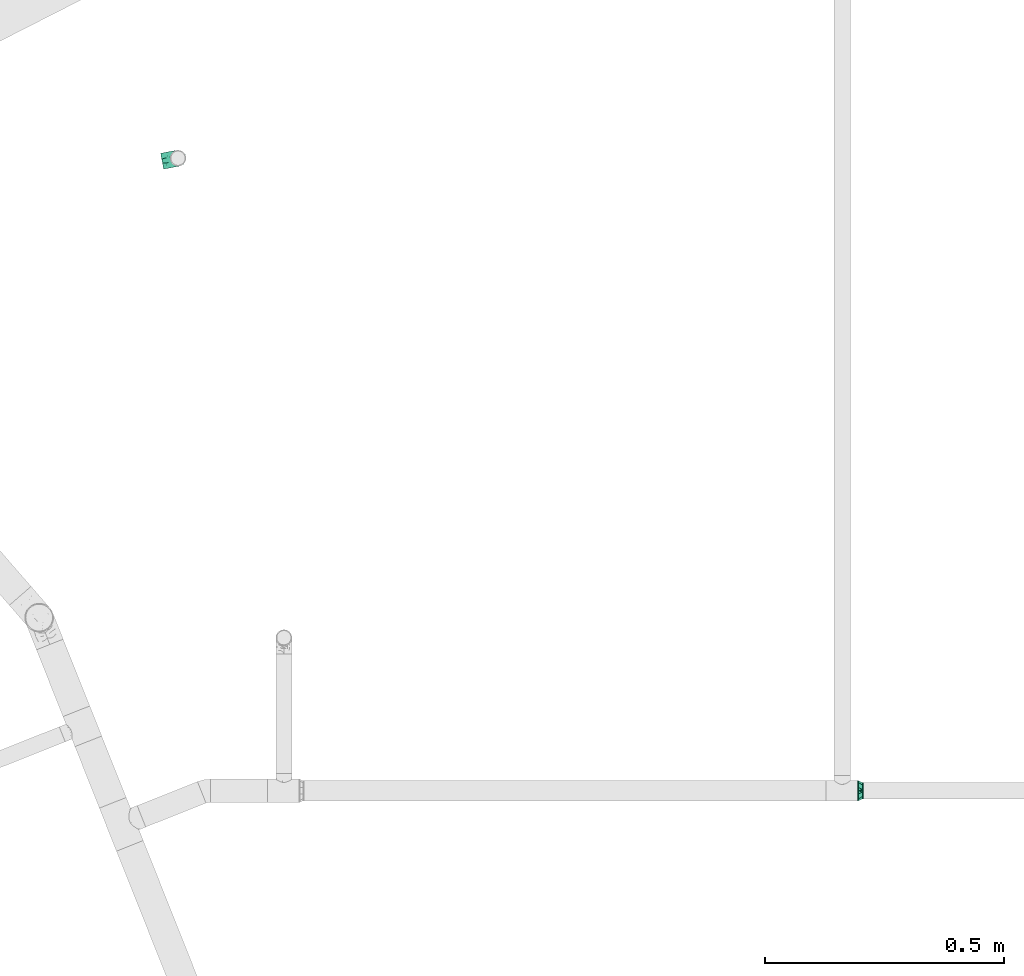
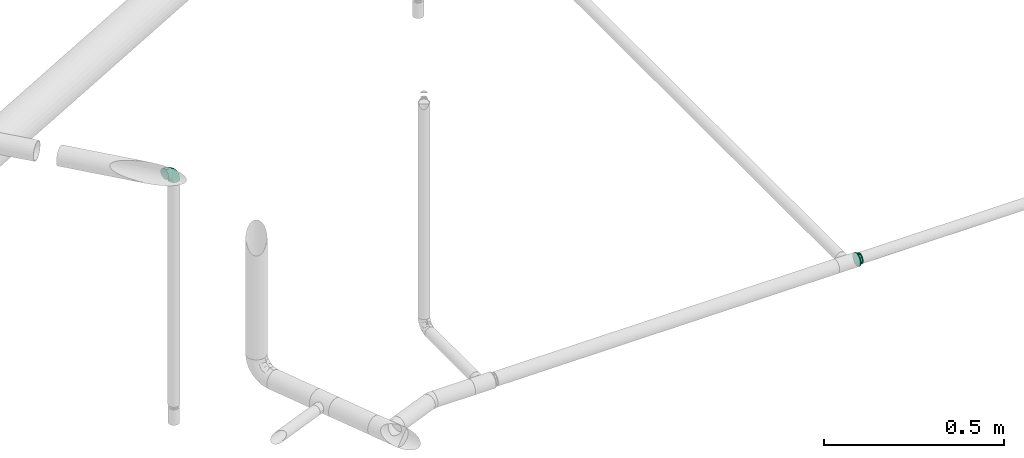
# One storey, part 45 of 94: 2 flow fittings.
"""IFC2X3 building model written with IfcOpenShell, lengths in millimetres."""

import ifcopenshell
import ifcopenshell.guid

model = None  # the IFC model being written
_history = None  # IfcOwnerHistory: only IFC2X3 demands one
_inside = {}  # id of a spatial element -> (the spatial element, [elements in it])
_under = {}  # id of a project, library or spatial element -> (it, [spatial elements below it])
_declared = {}  # id of a project -> (the project, [libraries it declares])
_typed = {}  # id of a type object -> (the type object, [elements of that type])
_made_of = {}  # id of a material, layer set ... -> (it, [elements and type objects made of it])


def new_model(schema):
    """Start an empty IFC model of exactly this schema.

    Asked for "IFC4X3", IfcOpenShell would pick the latest addendum, in which some entities
    have other attributes; the version numbers below select the first issue.
    IFC2X3 requires an IfcOwnerHistory on every rooted entity: one is made here for all.
    """
    global model, _history
    if schema == "IFC4X3":
        model = ifcopenshell.file(schema_version=(4, 3, 0, 0))
    else:
        model = ifcopenshell.file(schema=schema)
    _inside.clear()
    _under.clear()
    _declared.clear()
    _typed.clear()
    _made_of.clear()
    _history = None
    if model.schema == "IFC2X3":
        org = make("IfcOrganization", Name="unknown")
        user = make(
            "IfcPersonAndOrganization",
            ThePerson=make("IfcPerson", FamilyName="unknown"),
            TheOrganization=org,
        )
        app = make(
            "IfcApplication",
            ApplicationDeveloper=org,
            Version="unknown",
            ApplicationFullName="unknown",
            ApplicationIdentifier="unknown",
        )
        _history = make(
            "IfcOwnerHistory",
            OwningUser=user,
            OwningApplication=app,
            ChangeAction="ADDED",
            CreationDate=0,
        )
    return model


def make(cls, **values):
    """One entity of the class cls with the attributes given. An attribute that is None is left unset."""
    return model.create_entity(
        cls, **{name: value for name, value in values.items() if value is not None}
    )


def entity(cls, *values):
    """Any entity or typed value of the class cls, its attributes in the order of the schema. None: left unset."""
    e = model.create_entity(cls)
    for i, value in enumerate(values):
        if value is not None:
            e[i] = value
    return e


def rooted(cls, **values):
    """An entity with a GlobalId (a new one), such as an element, a storey or a relation."""
    return make(cls, GlobalId=ifcopenshell.guid.new(), OwnerHistory=_history, **values)


def si_unit(unit_type, name, prefix=None):
    """IfcSIUnit, for example si_unit("LENGTHUNIT", "METRE", prefix="MILLI")."""
    return make("IfcSIUnit", UnitType=unit_type, Prefix=prefix, Name=name)


def converted_unit(unit_type, name, factor, base, dimensions=None, offset=None):
    """IfcConversionBasedUnit, such as the inch: factor (a typed value) times the base unit."""
    return make(
        "IfcConversionBasedUnit"
        if offset is None
        else "IfcConversionBasedUnitWithOffset",
        ConversionOffset=offset,
        Dimensions=None
        if dimensions is None
        else entity("IfcDimensionalExponents", *dimensions),
        UnitType=unit_type,
        Name=name,
        ConversionFactor=make(
            "IfcMeasureWithUnit", ValueComponent=factor, UnitComponent=base
        ),
    )


def derived_unit(unit_type, elements):
    """IfcDerivedUnit: a product of units, each with its exponent."""
    return make(
        "IfcDerivedUnit",
        Elements=[
            make("IfcDerivedUnitElement", Unit=unit, Exponent=power)
            for unit, power in elements
        ],
        UnitType=unit_type,
    )


def assignment(units):
    """IfcUnitAssignment: the units of a project."""
    return None if units is None else make("IfcUnitAssignment", Units=units)


def point(xyz):
    """IfcCartesianPoint."""
    return None if xyz is None else make("IfcCartesianPoint", Coordinates=xyz)


def direction(xyz):
    """IfcDirection."""
    return None if xyz is None else make("IfcDirection", DirectionRatios=xyz)


def frame(location, z_axis=None, x_axis=None):
    """IfcAxis2Placement3D, a coordinate frame: its origin and axes. An axis left out is left unset."""
    return make(
        "IfcAxis2Placement3D",
        Location=point(location),
        Axis=direction(z_axis),
        RefDirection=direction(x_axis),
    )


def origin_with_axes():
    """The frame at (0, 0, 0) with the z axis (0, 0, 1) and the x axis (1, 0, 0) written out."""
    return frame((0.0, 0.0, 0.0), z_axis=(0.0, 0.0, 1.0), x_axis=(1.0, 0.0, 0.0))


def place(relative_to, where):
    """IfcLocalPlacement: puts the frame where relative to a parent placement (None: the world)."""
    return make(
        "IfcLocalPlacement", PlacementRelTo=relative_to, RelativePlacement=where
    )


def context(
    kind, dimensions, precision=None, world=None, true_north=None, identifier=None
):
    """IfcGeometricRepresentationContext, for example the 3D "Model" context."""
    return make(
        "IfcGeometricRepresentationContext",
        ContextIdentifier=identifier,
        ContextType=kind,
        CoordinateSpaceDimension=dimensions,
        Precision=precision,
        WorldCoordinateSystem=world,
        TrueNorth=true_north,
    )


def subcontext(parent, identifier, kind, view, scale=None):
    """IfcGeometricRepresentationSubContext, for example "Body" below "Model"."""
    return make(
        "IfcGeometricRepresentationSubContext",
        ContextIdentifier=identifier,
        ContextType=kind,
        ParentContext=parent,
        TargetScale=scale,
        TargetView=view,
    )


def project(units=None, contexts=None):
    """IfcProject with its units and contexts."""
    return rooted(
        "IfcProject",
        Name="project",
        RepresentationContexts=contexts,
        UnitsInContext=assignment(units),
    )


def spatial(cls, under=None, at=None, **own):
    """A site, building, storey or space (cls), placed at a placement, below another one or the project."""
    s = rooted(cls, ObjectPlacement=at, **own)
    if under is not None:
        _under.setdefault(under.id(), (under, []))[1].append(s)
    return s


def faces_of(points, faces, orient=None, outer=None):
    """IfcFace entities. A face is a list of loops; a loop is a list of indices into points, from 0.

    orient and outer hold one flag for each loop. By default every Orientation is true, the
    first loop of a face is its IfcFaceOuterBound and the others are IfcFaceBound.
    """
    made = []
    for i, loops in enumerate(faces):
        bounds = []
        for j, loop in enumerate(loops):
            is_outer = j == 0 if outer is None else outer[i][j]
            bounds.append(
                make(
                    "IfcFaceOuterBound" if is_outer else "IfcFaceBound",
                    Bound=make("IfcPolyLoop", Polygon=[points[k] for k in loop]),
                    Orientation=True if orient is None else orient[i][j],
                )
            )
        made.append(make("IfcFace", Bounds=bounds))
    return made


def open_shell(faces, orient=None, outer=None):
    """The faces of one IfcOpenShell. surface_model builds it on its shared points."""
    return ("IfcOpenShell", faces, orient, outer)


def surface_model(cls, points, shells):
    """IfcFaceBasedSurfaceModel or IfcShellBasedSurfaceModel (cls): surfaces that need not close."""
    shared = [point(p) for p in points]
    made = [make(c, CfsFaces=faces_of(shared, fs, o, b)) for c, fs, o, b in shells]
    if cls == "IfcFaceBasedSurfaceModel":
        return make(cls, FbsmFaces=made)
    return make(cls, SbsmBoundary=made)


def shape(context_of_items, identifier, shape_type, items):
    """IfcShapeRepresentation: the items that make up one representation, for example the "Body"."""
    return make(
        "IfcShapeRepresentation",
        ContextOfItems=context_of_items,
        RepresentationIdentifier=identifier,
        RepresentationType=shape_type,
        Items=items,
    )


def source(mapping_origin, context_of_items, identifier, shape_type, items):
    """IfcRepresentationMap: a shape defined once, which mapped items show again and again."""
    return make(
        "IfcRepresentationMap",
        MappingOrigin=mapping_origin,
        MappedRepresentation=shape(context_of_items, identifier, shape_type, items),
    )


def transform(
    local_origin,
    x_axis=None,
    y_axis=None,
    z_axis=None,
    scale=None,
    scale2=None,
    scale3=None,
    uniform=True,
):
    """IfcCartesianTransformationOperator3D, or its non-uniform kind. x_axis, y_axis, z_axis: its Axis1, 2, 3."""
    if uniform:
        return make(
            "IfcCartesianTransformationOperator3D",
            Axis1=direction(x_axis),
            Axis2=direction(y_axis),
            LocalOrigin=point(local_origin),
            Scale=scale,
            Axis3=direction(z_axis),
        )
    return make(
        "IfcCartesianTransformationOperator3DnonUniform",
        Axis1=direction(x_axis),
        Axis2=direction(y_axis),
        LocalOrigin=point(local_origin),
        Scale=scale,
        Axis3=direction(z_axis),
        Scale2=scale2,
        Scale3=scale3,
    )


def mapped(mapping_source, mapping_target):
    """IfcMappedItem: shows the shape of a source again, moved by a transform."""
    return make(
        "IfcMappedItem", MappingSource=mapping_source, MappingTarget=mapping_target
    )


def made_of(thing, what):
    """Note that an element or type object is made of a material, layer set ...; save() writes the relation."""
    if what is not None:
        _made_of.setdefault(what.id(), (what, []))[1].append(thing)
    return thing


def type_object(cls, material=None, **own):
    """A type object (cls), such as IfcWallType, which elements share."""
    return made_of(rooted(cls, **own), material)


def element(
    cls,
    number,
    at=None,
    inside=None,
    cuts=None,
    type_object=None,
    material=None,
    context=None,
    identifier="Body",
    shape_type=None,
    held_by="IfcProductDefinitionShape",
    body=None,
    shapes=None,
    **own,
):
    """One element of the class cls, such as IfcWall. Its Tag is "e" and its number.

    at: its placement. inside: the storey or other place that contains it. cuts: it is an
    opening in that element (IfcRelVoidsElement). A single representation is given by context,
    identifier, shape_type and body (its items); several are given by shapes. held_by: the class
    of the entity that holds the representations. save() writes the other relations.
    """
    e = rooted(cls, Tag="e%d" % number, ObjectPlacement=at, **own)
    if body is not None:
        shapes = [shape(context, identifier, shape_type, body)]
    if shapes is not None:
        e.Representation = make(held_by, Representations=shapes)
    if inside is not None:
        _inside.setdefault(inside.id(), (inside, []))[1].append(e)
    if cuts is not None:
        rooted(
            "IfcRelVoidsElement", RelatingBuildingElement=cuts, RelatedOpeningElement=e
        )
    if type_object is not None:
        _typed.setdefault(type_object.id(), (type_object, []))[1].append(e)
    return made_of(e, material)


def aggregate(whole, parts):
    """IfcRelAggregates: a whole, such as a stair, and the parts it consists of."""
    return rooted("IfcRelAggregates", RelatingObject=whole, RelatedObjects=parts)


def save(model, path):
    """Write the relations noted so far, then the file.

    IfcRelAggregates (storeys below a building ...), IfcRelContainedInSpatialStructure (elements
    in a storey), IfcRelDefinesByType, IfcRelAssociatesMaterial and IfcRelDeclares: one each for
    every whole, place, type object, material and project.
    """
    for whole, parts in _under.values():
        aggregate(whole, parts)
    for where, things in _inside.values():
        rooted(
            "IfcRelContainedInSpatialStructure",
            RelatedElements=things,
            RelatingStructure=where,
        )
    for kind, things in _typed.values():
        rooted("IfcRelDefinesByType", RelatedObjects=things, RelatingType=kind)
    for what, things in _made_of.values():
        rooted("IfcRelAssociatesMaterial", RelatedObjects=things, RelatingMaterial=what)
    for by, libraries in _declared.values():
        rooted("IfcRelDeclares", RelatingContext=by, RelatedDefinitions=libraries)
    model.write(path)


model = new_model("IFC2X3")

# Units and contexts
model_context = context("Model", 3, precision=0.01, world=frame((0.0, 4.29681676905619e-09, 0.0)), true_north=direction((4.01073788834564e-13, 1.0)))
plan_context = context("Plan", 3, precision=0.01, world=frame((0.0, 4.29681676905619e-09, 0.0)), true_north=direction((4.01073788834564e-13, 1.0)))
body_context = subcontext(model_context, "Body", "Model", "MODEL_VIEW")
ifc_project = project(units=[converted_unit("PLANEANGLEUNIT", "DEGREE", entity("IfcPositiveLengthMeasure", 0.0174532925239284), si_unit("PLANEANGLEUNIT", "RADIAN"), dimensions=[0, 0, 0, 0, 0, 0, 0]), si_unit("AREAUNIT", "SQUARE_METRE"), si_unit("LENGTHUNIT", "METRE", prefix="MILLI"), si_unit("MASSUNIT", "GRAM", prefix="KILO"), si_unit("POWERUNIT", "WATT"), si_unit("PRESSUREUNIT", "PASCAL", prefix="KILO"), si_unit("FORCEUNIT", "NEWTON", prefix="KILO"), si_unit("ELECTRICVOLTAGEUNIT", "VOLT"), si_unit("ELECTRICCURRENTUNIT", "AMPERE"), si_unit("THERMODYNAMICTEMPERATUREUNIT", "DEGREE_CELSIUS"), si_unit("TIMEUNIT", "SECOND"), si_unit("VOLUMEUNIT", "CUBIC_METRE"), derived_unit("LINEARVELOCITYUNIT", [(si_unit("LENGTHUNIT", "METRE"), 1), (si_unit("TIMEUNIT", "SECOND"), -1)]), derived_unit("VOLUMETRICFLOWRATEUNIT", [(si_unit("VOLUMEUNIT", "CUBIC_METRE"), 1), (si_unit("TIMEUNIT", "SECOND"), -1)]), derived_unit("THERMALTRANSMITTANCEUNIT", [(si_unit("POWERUNIT", "WATT"), 1), (si_unit("THERMODYNAMICTEMPERATUREUNIT", "KELVIN"), -1), (si_unit("AREAUNIT", "SQUARE_METRE"), -1)]), derived_unit("SOUNDPRESSUREUNIT", [(si_unit("PRESSUREUNIT", "PASCAL"), 1)])], contexts=[model_context, plan_context])

# Site, building, storey
site_placement = place(None, frame((0.0, -4.29681676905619e-09, 0.0), z_axis=(0.0, 0.0, 1.0), x_axis=(1.0, 0.0, 0.0)))
site = spatial("IfcSite", under=ifc_project, at=site_placement, CompositionType="ELEMENT")
building_placement = place(site_placement, frame((0.0, 4.29681676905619e-09, 0.0), z_axis=(0.0, 0.0, 1.0), x_axis=(1.0, 0.0, 0.0)))
building = spatial("IfcBuilding", under=site, at=building_placement, Name="mc-building", CompositionType="ELEMENT")
storey_placement = place(building_placement, frame((0.0, 0.0, 210900.0), z_axis=(0.0, 0.0, 1.0), x_axis=(1.0, 0.0, 0.0)))
storey = spatial("IfcBuildingStorey", under=building, at=storey_placement, Name="Nivå F", CompositionType="ELEMENT", Elevation=210900.0)

# Flow fittings
pipe_fitting_type_1 = type_object("IfcPipeFittingType", Name="magi_pipe_fe_reducer_centric_short_NOR", PredefinedType="TRANSITION")
shared_shape_1 = source(origin_with_axes(), body_context, "Body", "SurfaceModel", [
    surface_model("IfcShellBasedSurfaceModel", [(-2.0, -10.6, -18.35974), (-2.0, 0.0, -21.2), (-2.0, -5.48696, -20.47763), (-2.0, 5.48696, -20.47763), (-2.0, 10.6, -18.35974), (8.6, -11.9501, -11.9501), (8.6, -11.9501, 11.9501), (8.6, -16.9, 0.0), (8.6, 11.9501, -11.9501), (8.6, 16.9, 0.0), (8.6, 0.0, -16.9), (0.0, 17.15116, 12.46105), (0.0, 6.55116, -20.1624), (0.0, -21.2, 0.0), (0.0, -6.55116, -20.1624), (0.0, -17.15116, -12.46105), (8.6, 2.98753, -15.66253), (0.0, 0.0, -20.1624), (0.0, -11.85116, -16.31172), (8.6, -2.98753, -15.66253), (8.6, 8.96258, -13.18758), (8.6, 5.97505, -14.42505), (0.0, 11.85116, -16.31172), (8.6, -5.97505, -14.42505), (8.6, -13.18758, -8.96258), (8.6, -8.96258, -13.18758), (0.0, -6.55116, 20.1624), (8.6, -2.98753, 15.66253), (0.0, 0.0, 20.1624), (8.6, 11.9501, 11.9501), (0.0, 11.85116, 16.31172), (8.6, 2.98753, 15.66253), (0.0, 6.55116, 20.1624), (8.6, -8.96258, 13.18758), (8.6, -5.97505, 14.42505), (0.0, -11.85116, 16.31172), (8.6, 5.97505, 14.42505), (8.6, 13.18758, 8.96258), (8.6, 8.96258, 13.18758), (10.6, 4.37404, -16.32415), (10.6, 8.45, -14.63583), (10.6, 11.9501, -11.9501), (10.6, -8.45, -14.63583), (10.6, 16.32415, -4.37404), (10.6, 16.32415, 4.37404), (10.6, 14.63583, -8.45), (10.6, 0.0, -16.9), (10.6, -4.37404, -16.32415), (10.6, -11.9501, -11.9501), (10.6, -16.32415, -4.37404), (10.6, -14.63583, -8.45), (10.6, -16.32415, 4.37404), (10.6, 16.9, 0.0), (10.6, 14.63583, 8.45), (10.6, 11.9501, 11.9501), (10.6, 4.37404, 16.32415), (10.6, 8.45, 14.63583), (10.6, 0.0, 16.9), (10.6, -14.63583, 8.45), (10.6, -16.9, 0.0), (10.6, -8.45, 14.63583), (10.6, -11.9501, 11.9501), (10.6, -4.37404, 16.32415), (8.6, 4.37404, 16.32415), (8.6, -14.63583, 8.45), (8.6, 0.0, 16.9), (8.6, 16.32415, 4.37404), (8.6, 8.45, 14.63583), (8.6, 14.63583, 8.45), (8.6, -8.45, 14.63583), (8.6, -4.37404, 16.32415), (8.6, -16.32415, 4.37404), (8.6, -16.32415, -4.37404), (8.6, -8.45, -14.63583), (8.6, 16.32415, -4.37404), (8.6, 14.63583, -8.45), (8.6, 8.45, -14.63583), (8.6, 4.37404, -16.32415), (8.6, -14.63583, -8.45), (8.6, -4.37404, -16.32415), (-2.0, 0.0, 21.2), (-2.0, 5.48696, 20.47763), (-2.0, 10.6, 18.35974), (-2.0, 14.99066, 14.99066), (-2.0, 18.35974, 10.6), (-2.0, 20.47763, 5.48696), (-2.0, -21.2, 0.0), (-2.0, -14.99066, -14.99066), (-2.0, -5.48696, 20.47763), (-2.0, -14.99066, 14.99066), (-2.0, -10.6, 18.35974), (-2.0, -18.35974, 10.6), (-2.0, -20.47763, 5.48696), (-2.0, 20.47763, -5.48696), (-2.0, 14.99066, -14.99066), (-2.0, 18.35974, -10.6), (-2.0, -18.35974, -10.6), (-2.0, -20.47763, -5.48696), (-2.0, 21.2, 0.0), (0.0, 10.6, -18.35974), (0.0, 0.0, -21.2), (0.0, 5.48696, -20.47763), (0.0, 20.47763, -5.48696), (0.0, 14.99066, -14.99066), (0.0, -14.99066, -14.99066), (0.0, 18.35974, -10.6), (0.0, -10.6, -18.35974), (0.0, -5.48696, -20.47763), (0.0, -18.35974, -10.6), (0.0, -20.47763, -5.48696), (0.0, -18.35974, 10.6), (0.0, 21.2, 0.0), (0.0, 20.47763, 5.48696), (0.0, 18.35974, 10.6), (0.0, 14.99066, 14.99066), (0.0, 0.0, 21.2), (0.0, 10.6, 18.35974), (0.0, 5.48696, 20.47763), (0.0, -14.99066, 14.99066), (0.0, -20.47763, 5.48696), (0.0, -5.48696, 20.47763), (0.0, -10.6, 18.35974), (0.0, -17.15116, 12.46105), (0.0, 17.15116, -12.46105), (0.0, 14.50116, -14.38638), (8.6, -14.42505, -5.97505), (0.0, -19.17558, -6.23052), (0.0, -18.16337, -9.34579), (8.6, 14.42505, -5.97505), (0.0, 19.17558, -6.23052), (8.6, 13.18758, -8.96258), (8.6, 15.66253, -2.98753), (8.6, -15.66253, -2.98753), (0.0, -14.50116, 14.38638), (8.6, 14.42505, 5.97505), (0.0, 19.17558, 6.23052), (0.0, 18.16337, 9.34579), (8.6, -14.42505, 5.97505), (0.0, -19.17558, 6.23052), (8.6, -13.18758, 8.96258), (8.6, -15.66253, 2.98753), (8.6, 15.66253, 2.98753)], [open_shell([[[0, 1, 2]], [[3, 1, 4]], [[5, 6, 7]], [[8, 9, 10]], [[11, 12, 13]], [[13, 12, 14]], [[13, 14, 15]], [[12, 16, 17]], [[5, 15, 18]], [[17, 19, 14]], [[20, 21, 22]], [[19, 23, 14]], [[12, 21, 16]], [[15, 5, 24]], [[25, 5, 18]], [[22, 8, 20]], [[26, 27, 28]], [[29, 11, 30]], [[28, 31, 32]], [[33, 34, 35]], [[31, 36, 32]], [[26, 34, 27]], [[11, 29, 37]], [[38, 29, 30]], [[35, 6, 33]], [[39, 40, 41]], [[42, 39, 41]], [[41, 43, 44]], [[43, 41, 45]], [[41, 44, 42]], [[46, 42, 47]], [[46, 39, 42]], [[48, 49, 50]], [[49, 48, 42]], [[42, 51, 49]], [[44, 43, 52]], [[44, 53, 54]], [[44, 54, 55]], [[55, 51, 42]], [[55, 54, 56]], [[51, 55, 57]], [[57, 58, 51]], [[59, 49, 51]], [[58, 60, 61]], [[58, 57, 60]], [[60, 57, 62]], [[42, 44, 55]], [[63, 64, 65]], [[66, 63, 67]], [[29, 68, 66]], [[29, 66, 67]], [[64, 63, 66]], [[69, 64, 6]], [[69, 70, 65]], [[65, 64, 69]], [[71, 64, 66]], [[71, 72, 7]], [[71, 66, 73]], [[66, 74, 8]], [[8, 74, 75]], [[8, 76, 77]], [[73, 66, 8]], [[77, 10, 8]], [[72, 5, 78]], [[5, 72, 73]], [[73, 10, 79]], [[72, 71, 73]], [[8, 10, 73]], [[74, 66, 9]], [[72, 49, 7]], [[78, 50, 72]], [[42, 5, 73]], [[78, 5, 48]], [[47, 73, 79]], [[72, 50, 49]], [[49, 59, 7]], [[47, 42, 73]], [[48, 5, 42]], [[48, 50, 78]], [[46, 47, 79]], [[79, 10, 46]], [[77, 39, 10]], [[76, 40, 77]], [[45, 8, 75]], [[76, 8, 41]], [[43, 75, 74]], [[76, 41, 40]], [[40, 39, 77]], [[52, 43, 74]], [[45, 75, 43]], [[45, 41, 8]], [[9, 52, 74]], [[10, 39, 46]], [[66, 44, 9]], [[68, 53, 66]], [[56, 29, 67]], [[68, 29, 54]], [[55, 67, 63]], [[66, 53, 44]], [[44, 52, 9]], [[55, 56, 67]], [[54, 29, 56]], [[54, 53, 68]], [[57, 55, 63]], [[63, 65, 57]], [[70, 62, 65]], [[69, 60, 70]], [[58, 6, 64]], [[69, 6, 61]], [[51, 64, 71]], [[69, 61, 60]], [[60, 62, 70]], [[59, 51, 71]], [[58, 64, 51]], [[58, 61, 6]], [[7, 59, 71]], [[65, 62, 57]], [[80, 81, 82]], [[80, 82, 83]], [[83, 84, 85]], [[83, 85, 80]], [[86, 80, 87]], [[88, 89, 90]], [[88, 80, 89]], [[91, 86, 92]], [[89, 80, 91]], [[80, 86, 91]], [[80, 85, 87]], [[85, 93, 4]], [[94, 93, 95]], [[87, 85, 4]], [[4, 93, 94]], [[86, 96, 97]], [[87, 96, 86]], [[0, 87, 4]], [[1, 0, 4]], [[93, 85, 98]], [[99, 100, 101]], [[102, 99, 103]], [[13, 104, 99]], [[102, 103, 105]], [[102, 13, 99]], [[100, 106, 107]], [[100, 99, 106]], [[108, 13, 109]], [[106, 99, 104]], [[108, 104, 13]], [[110, 102, 111]], [[112, 113, 114]], [[112, 114, 115]], [[116, 117, 115]], [[116, 115, 114]], [[112, 115, 118]], [[13, 110, 119]], [[102, 110, 13]], [[118, 120, 121]], [[110, 112, 118]], [[115, 120, 118]], [[110, 111, 112]], [[97, 109, 86]], [[96, 108, 97]], [[106, 87, 0]], [[96, 87, 104]], [[107, 0, 2]], [[97, 108, 109]], [[109, 13, 86]], [[107, 106, 0]], [[104, 87, 106]], [[104, 108, 96]], [[100, 107, 2]], [[2, 1, 100]], [[3, 101, 1]], [[4, 99, 3]], [[105, 94, 95]], [[4, 94, 103]], [[102, 95, 93]], [[4, 103, 99]], [[99, 101, 3]], [[111, 102, 93]], [[105, 95, 102]], [[105, 103, 94]], [[98, 111, 93]], [[1, 101, 100]], [[85, 112, 98]], [[84, 113, 85]], [[116, 83, 82]], [[84, 83, 114]], [[117, 82, 81]], [[85, 113, 112]], [[112, 111, 98]], [[117, 116, 82]], [[114, 83, 116]], [[114, 113, 84]], [[115, 117, 81]], [[81, 80, 115]], [[88, 120, 80]], [[90, 121, 88]], [[110, 89, 91]], [[90, 89, 118]], [[119, 91, 92]], [[90, 118, 121]], [[121, 120, 88]], [[13, 119, 92]], [[110, 91, 119]], [[110, 118, 89]], [[86, 13, 92]], [[80, 120, 115]], [[65, 6, 29]], [[9, 29, 6]], [[6, 10, 9]], [[10, 6, 5]], [[32, 11, 122]], [[32, 122, 26]], [[122, 11, 13]], [[12, 11, 123]], [[123, 11, 111]], [[8, 22, 124]], [[125, 126, 127]], [[22, 21, 12]], [[8, 124, 123]], [[128, 123, 129]], [[17, 16, 10]], [[123, 128, 130]], [[111, 131, 129]], [[13, 132, 7]], [[18, 23, 25]], [[13, 126, 132]], [[19, 17, 10]], [[131, 111, 9]], [[125, 132, 126]], [[15, 24, 127]], [[24, 125, 127]], [[8, 123, 130]], [[23, 18, 14]], [[131, 128, 129]], [[6, 35, 133]], [[134, 135, 136]], [[35, 34, 26]], [[6, 133, 122]], [[137, 122, 138]], [[28, 27, 65]], [[122, 137, 139]], [[13, 140, 138]], [[111, 141, 9]], [[30, 36, 38]], [[111, 135, 141]], [[31, 28, 65]], [[140, 13, 7]], [[134, 141, 135]], [[11, 37, 136]], [[37, 134, 136]], [[6, 122, 139]], [[36, 30, 32]], [[140, 137, 138]]])]),
])
flow_fitting_1_placement = place(storey_placement, frame((720422.70308, 440878.08755, 3600.0), z_axis=(0.0, 0.0, 1.0), x_axis=(1.0, 0.0, 0.0)))
element("IfcFlowFitting", 1, at=flow_fitting_1_placement, inside=storey, type_object=pipe_fitting_type_1, Name="magi_pipe_fe_reducer_centric_short_NOR", context=body_context, shape_type="MappedRepresentation", body=[
    mapped(shared_shape_1, transform((0.0, 0.0, 0.0), scale=1.0)),
])
pipe_fitting_type_2 = type_object("IfcPipeFittingType", Name="magi_pipe_fe_elbow_short_001", PredefinedType="BEND")
shared_shape_2 = source(origin_with_axes(), body_context, "Body", "SurfaceModel", [
    surface_model("IfcShellBasedSurfaceModel", [(-33.8, 8.45, -14.63583), (-33.8, 4.37404, -16.32415), (-33.8, 11.9501, -11.9501), (-33.8, -11.9501, -11.9501), (-33.8, -14.63583, -8.45), (-33.8, -8.45, -14.63583), (-33.8, 0.0, -16.9), (-33.8, -4.37404, -16.32415), (-33.8, -4.37404, 16.32415), (-33.8, 0.0, 16.9), (-33.8, -8.45, 14.63583), (-33.8, 16.32415, -4.37404), (-33.8, 14.63583, -8.45), (-33.8, -16.32415, -4.37404), (-33.8, -16.9, 0.0), (-33.8, -16.32415, 4.37404), (-33.8, 11.9501, 11.9501), (-33.8, 14.63583, 8.45), (-33.8, 16.32415, 4.37404), (-33.8, 4.37404, 16.32415), (-33.8, 8.45, 14.63583), (-33.8, -14.63583, 8.45), (-33.8, -11.9501, 11.9501), (-33.8, 16.9, 0.0), (-11.9501, 33.8, -11.9501), (0.0, 33.8, -16.9), (-4.37404, 33.8, -16.32415), (-8.45, 33.8, -14.63583), (-14.63583, 33.8, -8.45), (-16.32415, 33.8, -4.37404), (14.63583, 33.8, -8.45), (8.45, 33.8, 14.63583), (16.32415, 33.8, -4.37404), (8.45, 33.8, -14.63583), (11.9501, 33.8, -11.9501), (4.37404, 33.8, -16.32415), (16.32415, 33.8, 4.37404), (16.9, 33.8, 0.0), (-11.9501, 33.8, 11.9501), (-16.32415, 33.8, 4.37404), (-14.63583, 33.8, 8.45), (-8.45, 33.8, 14.63583), (-4.37404, 33.8, 16.32415), (11.9501, 33.8, 11.9501), (14.63583, 33.8, 8.45), (0.0, 33.8, 16.9), (4.37404, 33.8, 16.32415), (-16.9, 33.8, 0.0), (-24.79389, -13.12945, 9.48721), (-22.19287, -9.75018, 12.59315), (-24.09897, -14.97035, 0.0), (-14.93934, -10.76256, 8.5297), (-22.46095, -14.75051, 5.27077), (14.75051, 22.46094, 5.27077), (11.9251, 13.23888, 4.33236), (13.04069, 14.39795, 0.0), (7.71387, 13.68847, 11.55891), (9.75018, 22.19287, 12.59315), (4.10169, 13.0571, 14.04018), (-24.84007, -6.39063, 15.2048), (-25.81779, -2.23879, 16.61097), (-23.66549, 2.59054, 16.87119), (-26.50418, 14.06512, 11.08152), (-24.21253, 17.66365, 7.72657), (-29.58514, 15.86957, 7.00283), (-6.17382, -7.5455, 0.0), (-13.23888, -11.9251, 4.33236), (-14.39795, -13.04069, 0.0), (-17.81434, 18.87373, 11.97104), (-6.30846, 29.15138, 15.82987), (-2.31622, 25.28002, 16.85849), (-29.23923, 10.23435, 13.77053), (-1.45439, -2.85688, 7.61475), (-0.28326, 0.34872, 10.09509), (-5.74484, -4.04709, 10.4122), (-4.41137, 11.31918, 16.59407), (-8.39727, 3.10034, 15.7812), (-1.72649, 9.1306, 15.53089), (-17.39909, 24.75344, 7.64977), (-26.19233, 20.0512, 0.0), (-28.14518, 17.29657, 4.25857), (-26.05147, 6.6281, 15.96447), (-5.87354, 16.61944, 16.86968), (-12.51807, 12.51807, 16.48937), (-10.06312, 7.38516, 16.81295), (-3.01882, 3.01882, 13.81718), (-13.0571, -4.10169, 14.04018), (-16.82553, -0.15166, 16.38038), (10.76256, 14.93934, 8.5297), (13.12945, 24.79389, 9.48721), (6.39063, 24.84007, 15.2048), (2.23879, 25.81779, 16.61097), (-13.68847, -7.71387, 11.55891), (14.97035, 24.09897, 0.0), (-7.30894, 22.89991, 16.09489), (-10.67958, 26.17414, 14.008), (-12.78295, 18.26924, 15.06066), (-13.88562, 22.45231, 12.93244), (-18.04944, 15.16501, 14.04434), (-23.11658, 20.08178, 4.02986), (-21.84989, 21.84989, 0.0), (-18.55817, 25.48277, 3.93065), (-13.95142, 26.94732, 11.03289), (-18.57098, 7.23906, 16.59756), (-16.58335, 4.14122, 16.89279), (-17.96666, 11.46709, 15.63151), (-9.84453, 17.54304, 16.18938), (0.15166, 16.82553, 16.38038), (-23.27207, 11.47201, 14.23154), (3.84842, 5.86994, 10.70473), (-8.0212, -7.54413, 7.93275), (1.00345, -2.19508, 4.57414), (5.13203, 3.01004, 5.90201), (5.24161, 1.7543, 2.53265), (8.70457, 7.04947, 3.99182), (-20.0512, 26.19233, 0.0), (8.4852, 8.76699, 7.09296), (-4.55488, -6.72064, 4.90681), (2.05031, -2.05031, 0.0), (7.5455, 6.17382, 0.0), (-26.75399, 2.1369, -16.845), (-14.61995, 24.73803, -11.27736), (-28.45274, -13.45335, -9.81895), (-26.00469, 6.63555, -15.96645), (-23.06726, 20.04573, -4.26202), (-13.80647, -4.26506, -14.17873), (-14.67501, -0.21081, -16.07388), (-6.7902, -0.2828, -13.8478), (-24.53586, 11.08096, -14.13417), (-26.72048, 14.00837, -11.05776), (10.0967, 24.44989, -12.75976), (5.83237, 21.40218, -15.03047), (6.66249, 28.54238, -15.38093), (-20.38182, 15.48705, -12.74596), (12.53268, 21.23441, -9.15363), (12.54494, 15.67504, -5.54878), (9.7522, 12.89279, -8.66343), (-15.65186, 19.64213, -13.01327), (-12.03528, 20.66498, -14.67665), (-15.61907, 15.61906, -14.83879), (-25.56551, -15.26206, 0.0), (-24.65452, -15.12934, -5.50955), (13.45335, 28.45274, -9.81895), (15.12934, 24.65452, -5.50955), (-7.35442, -8.31014, -5.65563), (-15.67504, -12.54494, -5.54878), (-24.44989, -10.0967, -12.75976), (0.16522, 0.41303, -9.71728), (-5.70658, -5.33066, -8.89288), (-5.13869, -2.37198, -11.53565), (-21.23441, -12.53268, -9.15363), (0.71146, 7.93863, -14.09382), (0.21081, 14.67501, -16.07388), (3.49291, 14.42772, -14.76381), (-24.89911, -2.13088, -16.591), (-28.54238, -6.66249, -15.38093), (-18.44386, -7.71663, -13.26957), (2.13088, 24.89911, -16.591), (-28.64342, 17.44413, -2.89318), (1.70017, -1.28722, -5.09504), (-16.57067, 26.81947, -7.36596), (-17.69055, 27.4263, -3.76405), (-12.89279, -9.7522, -8.66343), (-5.96611, 5.96611, -15.95814), (-20.53709, 20.09345, -8.28985), (-2.1369, 26.75399, -16.845), (-6.89872, 24.58781, -16.02578), (-10.60739, 26.53157, -13.98044), (-21.40218, -5.83237, -15.03047), (2.93192, 5.89627, -11.55917), (6.89393, 12.61842, -11.82233), (5.58056, 5.95325, -8.79455), (-3.99512, 18.61798, -16.89635), (8.31014, 7.35442, -5.65563), (-9.1383, 9.86148, -16.89041), (-9.99983, 16.02119, -16.39699), (-16.68576, 9.78031, -16.34199), (-27.01915, 16.61158, -7.12979), (15.26206, 25.56551, 0.0), (-18.61798, 3.99512, -16.89635), (-19.37495, 27.82495, 0.0), (-12.61842, -6.89393, -11.82233), (-18.84705, 19.14018, -10.96545)], [open_shell([[[0, 1, 2]], [[3, 4, 5]], [[6, 7, 5]], [[8, 9, 10]], [[1, 6, 2]], [[11, 12, 2]], [[4, 2, 6]], [[2, 13, 10]], [[5, 4, 6]], [[2, 4, 13]], [[14, 15, 13]], [[11, 2, 16]], [[11, 17, 18]], [[11, 16, 17]], [[19, 20, 16]], [[16, 2, 10]], [[19, 16, 10]], [[21, 22, 15]], [[22, 13, 15]], [[22, 10, 13]], [[10, 9, 19]], [[11, 18, 23]], [[24, 25, 26]], [[24, 26, 27]], [[24, 28, 29]], [[25, 24, 30]], [[31, 32, 24]], [[33, 30, 34]], [[33, 35, 25]], [[25, 30, 33]], [[32, 30, 24]], [[32, 36, 37]], [[38, 24, 29]], [[39, 40, 29]], [[40, 38, 29]], [[38, 41, 42]], [[38, 31, 24]], [[31, 38, 42]], [[36, 43, 44]], [[36, 32, 43]], [[31, 45, 46]], [[32, 31, 43]], [[42, 45, 31]], [[39, 29, 47]], [[22, 48, 49]], [[15, 14, 50]], [[51, 48, 52]], [[53, 54, 55]], [[48, 22, 21]], [[15, 52, 21]], [[56, 57, 58]], [[49, 10, 22]], [[49, 59, 10]], [[9, 60, 61]], [[62, 63, 64]], [[65, 66, 67]], [[57, 43, 31]], [[62, 68, 63]], [[42, 69, 70]], [[20, 71, 16]], [[8, 60, 9]], [[72, 73, 74]], [[75, 76, 77]], [[16, 62, 17]], [[40, 39, 78]], [[79, 23, 80]], [[64, 18, 17]], [[9, 61, 19]], [[19, 81, 20]], [[82, 83, 84]], [[74, 85, 86]], [[59, 86, 87]], [[88, 89, 57]], [[90, 31, 46]], [[44, 53, 36]], [[46, 45, 91]], [[54, 53, 88]], [[44, 89, 53]], [[92, 86, 49]], [[89, 44, 43]], [[10, 59, 8]], [[53, 55, 93]], [[93, 36, 53]], [[66, 52, 67]], [[94, 82, 70]], [[95, 96, 94]], [[97, 98, 96]], [[79, 99, 100]], [[41, 38, 95]], [[101, 100, 99]], [[68, 78, 63]], [[42, 41, 69]], [[23, 18, 80]], [[95, 94, 69]], [[78, 101, 99]], [[38, 102, 95]], [[70, 45, 42]], [[97, 95, 102]], [[15, 50, 52]], [[90, 57, 31]], [[57, 90, 58]], [[81, 19, 61]], [[103, 104, 84]], [[105, 81, 103]], [[38, 40, 102]], [[106, 96, 83]], [[94, 106, 82]], [[91, 70, 107]], [[71, 62, 16]], [[62, 108, 98]], [[86, 59, 49]], [[67, 52, 50]], [[60, 59, 87]], [[92, 49, 51]], [[86, 85, 76]], [[91, 90, 46]], [[37, 36, 93]], [[107, 77, 58]], [[107, 58, 90]], [[58, 85, 109]], [[110, 74, 92]], [[72, 74, 110]], [[66, 51, 52]], [[72, 111, 112]], [[113, 114, 112]], [[56, 88, 57]], [[52, 48, 21]], [[49, 48, 51]], [[57, 89, 43]], [[53, 89, 88]], [[103, 81, 61]], [[71, 81, 108]], [[18, 64, 80]], [[63, 78, 99]], [[47, 115, 101]], [[101, 115, 100]], [[40, 78, 102]], [[68, 102, 78]], [[97, 96, 95]], [[105, 98, 108]], [[103, 84, 83]], [[107, 70, 82]], [[76, 84, 87]], [[82, 84, 75]], [[70, 91, 45]], [[90, 91, 107]], [[59, 60, 8]], [[61, 60, 87]], [[73, 85, 74]], [[109, 112, 116]], [[103, 61, 104]], [[105, 103, 83]], [[96, 105, 83]], [[81, 105, 108]], [[96, 98, 105]], [[62, 98, 68]], [[61, 87, 104]], [[87, 84, 104]], [[86, 76, 87]], [[77, 76, 85]], [[58, 77, 85]], [[75, 77, 107]], [[82, 75, 107]], [[76, 75, 84]], [[81, 71, 20]], [[62, 71, 108]], [[95, 69, 41]], [[70, 69, 94]], [[62, 64, 17]], [[80, 63, 99]], [[63, 80, 64]], [[80, 99, 79]], [[66, 65, 117]], [[110, 66, 117]], [[112, 114, 116]], [[118, 117, 65]], [[110, 92, 51]], [[112, 111, 113]], [[119, 55, 54]], [[74, 86, 92]], [[58, 109, 56]], [[116, 56, 109]], [[66, 110, 51]], [[72, 110, 117]], [[111, 72, 117]], [[73, 112, 109]], [[117, 118, 111]], [[113, 111, 118]], [[118, 119, 113]], [[114, 119, 54]], [[119, 114, 113]], [[116, 54, 88]], [[54, 116, 114]], [[116, 88, 56]], [[112, 73, 72]], [[85, 73, 109]], [[78, 39, 101]], [[47, 101, 39]], [[102, 68, 97]], [[97, 68, 98]], [[82, 106, 83]], [[94, 96, 106]], [[1, 120, 6]], [[28, 24, 121]], [[3, 122, 4]], [[0, 123, 1]], [[100, 124, 79]], [[125, 126, 127]], [[128, 2, 129]], [[130, 131, 132]], [[128, 129, 133]], [[134, 135, 136]], [[137, 138, 139]], [[128, 0, 2]], [[67, 140, 141]], [[134, 142, 143]], [[141, 13, 4]], [[144, 65, 145]], [[146, 3, 5]], [[147, 148, 149]], [[145, 141, 150]], [[151, 152, 153]], [[154, 7, 6]], [[5, 155, 146]], [[150, 146, 156]], [[155, 5, 7]], [[143, 135, 134]], [[35, 157, 25]], [[23, 79, 158]], [[148, 159, 144]], [[160, 161, 29]], [[145, 162, 144]], [[163, 152, 151]], [[29, 28, 160]], [[121, 164, 160]], [[33, 34, 130]], [[25, 165, 26]], [[26, 165, 166]], [[142, 34, 30]], [[24, 27, 167]], [[124, 161, 164]], [[157, 35, 132]], [[155, 154, 168]], [[123, 0, 128]], [[169, 170, 171]], [[172, 157, 152]], [[26, 166, 27]], [[132, 35, 33]], [[142, 130, 34]], [[168, 154, 126]], [[136, 135, 173]], [[133, 137, 139]], [[2, 12, 129]], [[170, 131, 130]], [[30, 32, 143]], [[172, 174, 175]], [[176, 123, 128]], [[158, 177, 11]], [[135, 55, 119]], [[167, 27, 166]], [[175, 166, 172]], [[137, 167, 138]], [[122, 141, 4]], [[140, 14, 13]], [[32, 37, 178]], [[170, 130, 134]], [[152, 157, 131]], [[165, 157, 172]], [[153, 170, 151]], [[152, 163, 174]], [[168, 125, 156]], [[122, 146, 150]], [[120, 154, 6]], [[179, 174, 126]], [[179, 126, 154]], [[126, 163, 127]], [[162, 145, 150]], [[140, 13, 141]], [[32, 178, 143]], [[55, 143, 178]], [[177, 129, 12]], [[128, 133, 139]], [[176, 128, 139]], [[120, 123, 179]], [[121, 160, 28]], [[161, 100, 180]], [[166, 175, 138]], [[121, 24, 167]], [[161, 47, 29]], [[79, 124, 158]], [[124, 164, 177]], [[161, 124, 100]], [[136, 171, 170]], [[127, 163, 151]], [[147, 171, 159]], [[148, 144, 162]], [[127, 151, 169]], [[127, 181, 125]], [[129, 177, 164]], [[12, 11, 177]], [[159, 65, 144]], [[67, 141, 145]], [[143, 55, 135]], [[135, 119, 173]], [[123, 120, 1]], [[154, 120, 179]], [[157, 165, 25]], [[166, 165, 172]], [[172, 152, 174]], [[176, 139, 175]], [[126, 174, 163]], [[176, 174, 179]], [[174, 176, 175]], [[123, 176, 179]], [[150, 181, 162]], [[127, 149, 181]], [[181, 148, 162]], [[159, 148, 147]], [[171, 136, 173]], [[170, 134, 136]], [[159, 171, 173]], [[171, 147, 169]], [[169, 147, 149]], [[151, 170, 169]], [[164, 182, 129]], [[182, 121, 137]], [[181, 149, 148]], [[169, 149, 127]], [[182, 137, 133]], [[167, 137, 121]], [[166, 138, 167]], [[175, 139, 138]], [[129, 182, 133]], [[121, 182, 164]], [[161, 160, 164]], [[47, 161, 180]], [[177, 158, 124]], [[23, 158, 11]], [[130, 132, 33]], [[157, 132, 131]], [[143, 142, 30]], [[130, 142, 134]], [[154, 155, 7]], [[146, 155, 168]], [[146, 122, 3]], [[141, 122, 150]], [[152, 131, 153]], [[159, 119, 118]], [[67, 145, 65]], [[170, 153, 131]], [[119, 159, 173]], [[159, 118, 65]], [[156, 125, 181]], [[126, 125, 168]], [[150, 156, 181]], [[168, 156, 146]]])]),
])
flow_fitting_2_placement = place(storey_placement, frame((719000.0, 442200.7, 3600.0), z_axis=(0.187073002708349, -0.982346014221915, 0.0), x_axis=(0.0, 0.0, 1.0)))
element("IfcFlowFitting", 2, at=flow_fitting_2_placement, inside=storey, type_object=pipe_fitting_type_2, Name="magi_pipe_fe_elbow_short_001", context=body_context, shape_type="MappedRepresentation", body=[
    mapped(shared_shape_2, transform((0.0, 0.0, 0.0), scale=1.0)),
])

save(model, "model.ifc")
